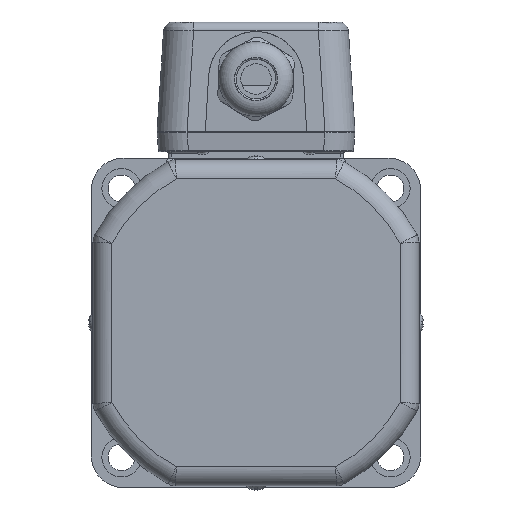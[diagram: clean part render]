
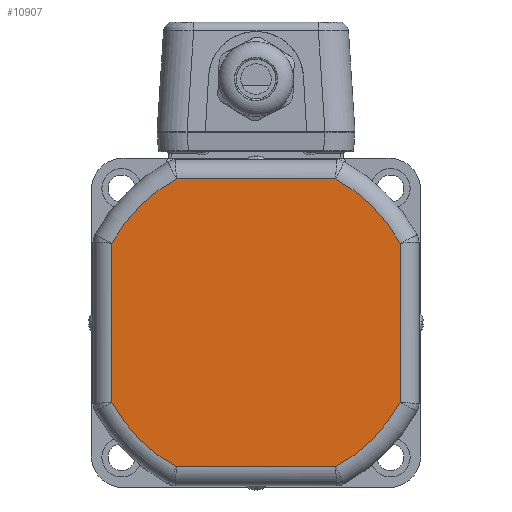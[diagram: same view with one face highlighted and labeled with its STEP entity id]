
A CAD part, left-side view. The second image highlights one B-rep face of the part: STEP entity #10907.
In plain terms, the highlighted planar face has unit normal (-1, 0, 0).
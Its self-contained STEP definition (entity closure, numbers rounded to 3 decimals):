
#9463=CARTESIAN_POINT('',(-20.,25.174,45.5));
#9464=VERTEX_POINT('',#9463);
#9514=CARTESIAN_POINT('',(-20.,45.5,25.174));
#9515=VERTEX_POINT('',#9514);
#9544=CARTESIAN_POINT('',(-20.,0.,0.));
#9545=DIRECTION('',(1.0,0.0,0.0));
#9546=DIRECTION('',(0.0,0.707,0.707));
#9547=AXIS2_PLACEMENT_3D('',#9544,#9545,#9546);
#9548=CIRCLE('',#9547,52.);
#9549=EDGE_CURVE('',#9515,#9464,#9548,.T.);
#9692=CARTESIAN_POINT('',(-20.,45.5,-25.174));
#9693=VERTEX_POINT('',#9692);
#9709=CARTESIAN_POINT('',(-20.,45.5,-25.174));
#9710=DIRECTION('',(0.0,0.0,1.0));
#9711=VECTOR('',#9710,50.349);
#9712=LINE('',#9709,#9711);
#9713=EDGE_CURVE('',#9693,#9515,#9712,.T.);
#9855=CARTESIAN_POINT('',(-20.,25.174,-45.5));
#9856=VERTEX_POINT('',#9855);
#9872=CARTESIAN_POINT('',(-20.,0.,0.));
#9873=DIRECTION('',(1.0,0.0,0.0));
#9874=DIRECTION('',(0.0,0.707,-0.707));
#9875=AXIS2_PLACEMENT_3D('',#9872,#9873,#9874);
#9876=CIRCLE('',#9875,52.);
#9877=EDGE_CURVE('',#9856,#9693,#9876,.T.);
#10007=CARTESIAN_POINT('',(-20.,-25.174,-45.5));
#10008=VERTEX_POINT('',#10007);
#10037=CARTESIAN_POINT('',(-20.,-25.174,-45.5));
#10038=DIRECTION('',(0.0,1.0,0.0));
#10039=VECTOR('',#10038,50.349);
#10040=LINE('',#10037,#10039);
#10041=EDGE_CURVE('',#10008,#9856,#10040,.T.);
#10257=CARTESIAN_POINT('',(-20.,-45.5,-25.174));
#10258=VERTEX_POINT('',#10257);
#10324=CARTESIAN_POINT('',(-20.,0.,0.));
#10325=DIRECTION('',(1.0,0.0,0.0));
#10326=DIRECTION('',(0.0,-0.707,-0.707));
#10327=AXIS2_PLACEMENT_3D('',#10324,#10325,#10326);
#10328=CIRCLE('',#10327,52.);
#10329=EDGE_CURVE('',#10258,#10008,#10328,.T.);
#10348=CARTESIAN_POINT('',(-20.,-45.5,25.174));
#10349=VERTEX_POINT('',#10348);
#10365=CARTESIAN_POINT('',(-20.,-45.5,25.174));
#10366=DIRECTION('',(0.0,0.0,-1.0));
#10367=VECTOR('',#10366,50.349);
#10368=LINE('',#10365,#10367);
#10369=EDGE_CURVE('',#10349,#10258,#10368,.T.);
#10488=CARTESIAN_POINT('',(-20.,-25.174,45.5));
#10489=VERTEX_POINT('',#10488);
#10504=CARTESIAN_POINT('',(-20.,0.,0.));
#10505=DIRECTION('',(1.0,0.0,0.0));
#10506=DIRECTION('',(0.0,-0.707,0.707));
#10507=AXIS2_PLACEMENT_3D('',#10504,#10505,#10506);
#10508=CIRCLE('',#10507,52.);
#10509=EDGE_CURVE('',#10489,#10349,#10508,.T.);
#10637=CARTESIAN_POINT('',(-20.,25.174,45.5));
#10638=DIRECTION('',(0.0,-1.0,0.0));
#10639=VECTOR('',#10638,50.349);
#10640=LINE('',#10637,#10639);
#10641=EDGE_CURVE('',#9464,#10489,#10640,.T.);
#10892=CARTESIAN_POINT('',(-20.,0.,0.));
#10893=DIRECTION('',(-1.0,0.0,0.0));
#10894=DIRECTION('',(0.0,0.0,1.0));
#10895=AXIS2_PLACEMENT_3D('',#10892,#10893,#10894);
#10896=PLANE('',#10895);
#10897=ORIENTED_EDGE('',*,*,#10641,.F.);
#10898=ORIENTED_EDGE('',*,*,#9549,.F.);
#10899=ORIENTED_EDGE('',*,*,#9713,.F.);
#10900=ORIENTED_EDGE('',*,*,#9877,.F.);
#10901=ORIENTED_EDGE('',*,*,#10041,.F.);
#10902=ORIENTED_EDGE('',*,*,#10329,.F.);
#10903=ORIENTED_EDGE('',*,*,#10369,.F.);
#10904=ORIENTED_EDGE('',*,*,#10509,.F.);
#10905=EDGE_LOOP('',(#10897,#10898,#10899,#10900,#10901,#10902,#10903,#10904));
#10906=FACE_OUTER_BOUND('',#10905,.T.);
#10907=ADVANCED_FACE('',(#10906),#10896,.T.);
